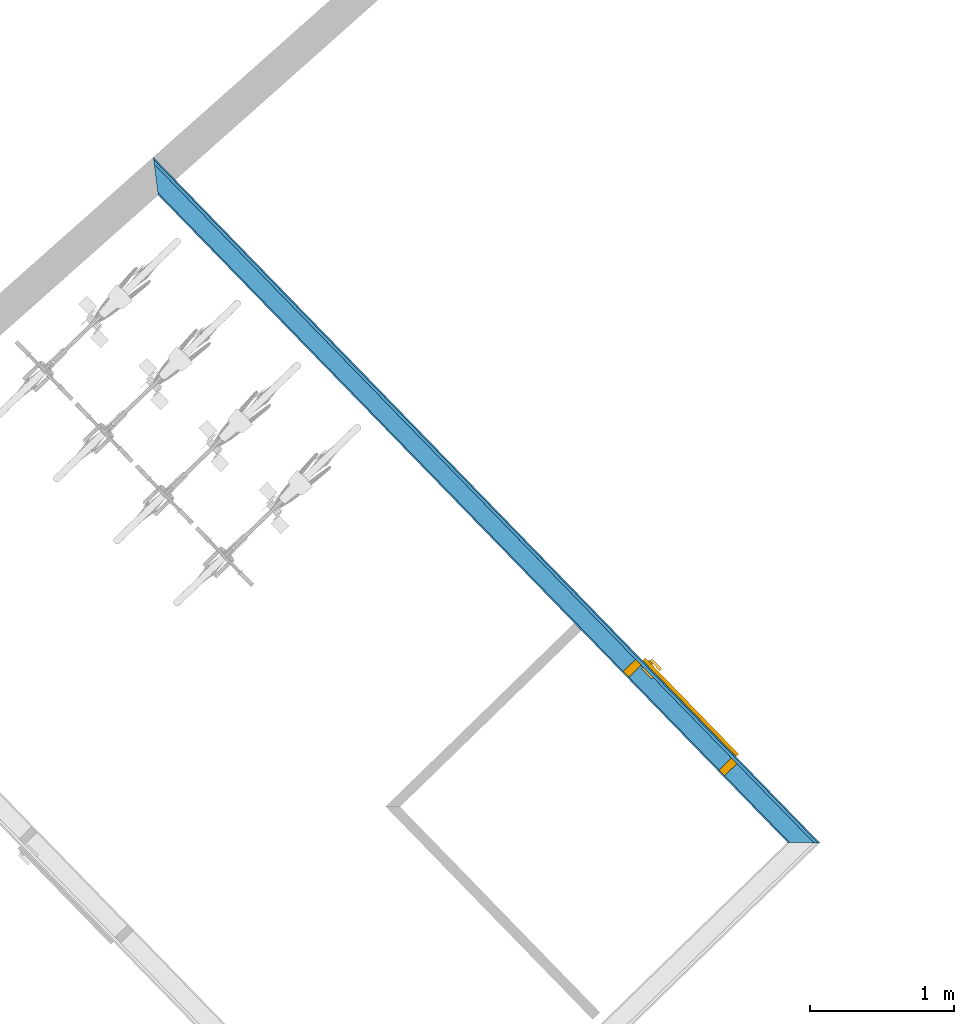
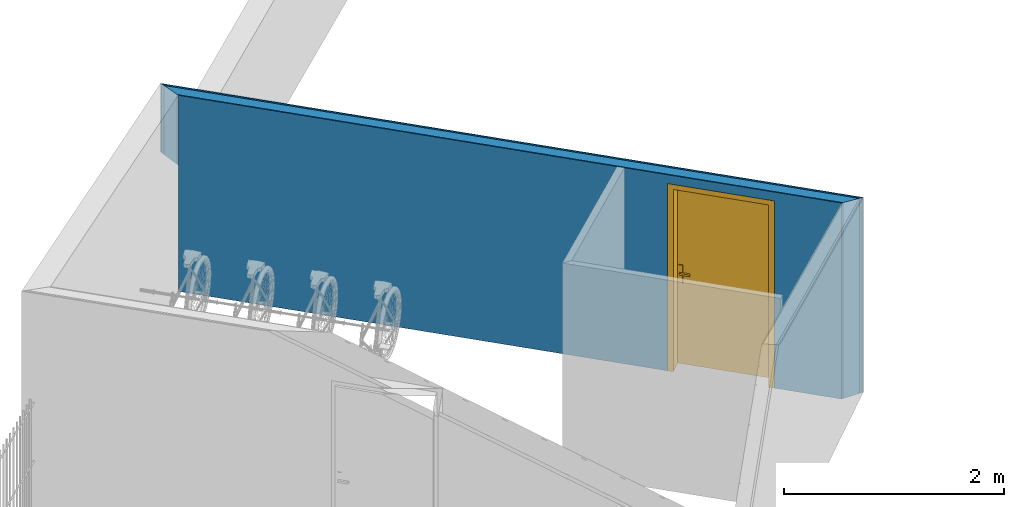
# One storey, part 113 of 195: 4 building element parts, 1 door, 1 opening, 1 element without a shape of its own.
"""IFC2X3 building model written with IfcOpenShell, lengths in metres."""

from ifc_helpers import new_model, entity, si_unit, converted_unit, derived_unit, money_unit, direction, frame, origin_with_axes, origin_2d_with_axis, place, context, subcontext, project, spatial, polyline, rectangle, outline, extrude, boolean, faceted_brep, source, transform, mapped, material, type_object, element, fill, aggregate, save


model = new_model("IFC2X3")

# Units and contexts
model_context = context("Model", 3, precision=1e-05, world=origin_with_axes(), true_north=direction((0.0, 1.0)))
body_context = subcontext(model_context, "Body", "Model", "MODEL_VIEW")
ifc_project = project(units=[si_unit("LENGTHUNIT", "METRE"), si_unit("AREAUNIT", "SQUARE_METRE"), si_unit("VOLUMEUNIT", "CUBIC_METRE"), converted_unit("PLANEANGLEUNIT", "DEGREE", entity("IfcPlaneAngleMeasure", 0.0174532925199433), si_unit("PLANEANGLEUNIT", "RADIAN"), dimensions=[0, 0, 0, 0, 0, 0, 0]), money_unit("CHF"), converted_unit("TIMEUNIT", "Year", entity("IfcTimeMeasure", 31557600.0), si_unit("TIMEUNIT", "SECOND"), dimensions=[0, 0, 1, 0, 0, 0, 0]), si_unit("MASSUNIT", "GRAM", prefix="KILO"), si_unit("THERMODYNAMICTEMPERATUREUNIT", "DEGREE_CELSIUS"), si_unit("LUMINOUSINTENSITYUNIT", "LUMEN"), si_unit("ENERGYUNIT", "JOULE", prefix="MEGA"), derived_unit("THERMALCONDUCTANCEUNIT", [(si_unit("POWERUNIT", "WATT"), 1), (si_unit("LENGTHUNIT", "METRE"), -1), (si_unit("THERMODYNAMICTEMPERATUREUNIT", "KELVIN"), -1)]), derived_unit("SPECIFICHEATCAPACITYUNIT", [(si_unit("ENERGYUNIT", "JOULE"), 1), (si_unit("MASSUNIT", "GRAM", prefix="KILO"), -1), (si_unit("THERMODYNAMICTEMPERATUREUNIT", "KELVIN"), -1)]), derived_unit("MASSDENSITYUNIT", [(si_unit("MASSUNIT", "GRAM", prefix="KILO"), 1), (si_unit("VOLUMEUNIT", "CUBIC_METRE"), -1)])], contexts=[model_context])

# Site, building, storey
site_placement = place(None, origin_with_axes())
site = spatial("IfcSite", under=ifc_project, at=site_placement, Name="Site", CompositionType="ELEMENT")
building_placement = place(site_placement, origin_with_axes())
building = spatial("IfcBuilding", under=site, at=building_placement, Name="Bâtiment", CompositionType="ELEMENT")
storey_placement = place(building_placement, origin_with_axes())
storey = spatial("IfcBuildingStorey", under=building, at=storey_placement, Name="rdc", CompositionType="ELEMENT", Elevation=0.0)

# Door
door_style = type_object("IfcDoorStyle", Name="Porte_1v", ConstructionType="NOTDEFINED", OperationType="NOTDEFINED", ParameterTakesPrecedence=False, Sizeable=False)
shared_shape = source(origin_with_axes(), body_context, "Body", "Brep", [
    faceted_brep([(0.505, 0.0, 0.0), (0.465, 0.0, 0.0), (0.465, 0.0, 2.04), (-0.465, 0.0, 2.04), (-0.465, 0.0, 0.0), (-0.505, 0.0, 0.0), (-0.505, 0.0, 2.08), (0.505, 0.0, 2.08), (0.505, -0.16, 0.0), (0.45, -0.16, 0.0), (0.45, -0.015, 0.0), (0.465, -0.015, 0.0), (0.465, -0.015, 2.04), (-0.465, -0.015, 2.04), (-0.465, -0.015, 0.0), (-0.45, -0.015, 0.0), (-0.45, -0.16, 0.0), (-0.505, -0.16, 0.0), (-0.505, -0.16, 2.08), (0.505, -0.16, 2.08), (-0.45, -0.16, 2.025), (0.45, -0.16, 2.025), (0.45, -0.015, 2.025), (-0.45, -0.015, 2.025)], [[[0, 1, 2, 3, 4, 5, 6, 7]], [[0, 8, 9, 10, 11, 1]], [[1, 11, 12, 2]], [[2, 12, 13, 3]], [[3, 13, 14, 4]], [[5, 4, 14, 15, 16, 17]], [[18, 6, 5, 17]], [[19, 7, 6, 18]], [[8, 0, 7, 19]], [[9, 8, 19, 18, 17, 16, 20, 21]], [[10, 9, 21, 22]], [[11, 10, 22, 23, 15, 14, 13, 12]], [[23, 20, 16, 15]], [[22, 21, 20, 23]]]),
    faceted_brep([(-0.4, -0.015, 0.9), (-0.44, -0.015, 0.9), (-0.44, -0.015, 1.1), (-0.4, -0.015, 1.1), (-0.4, -0.025, 0.9), (-0.44, -0.025, 0.9), (-0.44, -0.025, 1.1), (-0.4, -0.025, 1.1)], [[[0, 1, 2, 3]], [[1, 0, 4, 5]], [[2, 1, 5, 6]], [[3, 2, 6, 7]], [[0, 3, 7, 4]], [[5, 4, 7, 6]]]),
    faceted_brep([(-0.33, -0.025, 1.0), (-0.43, -0.025, 1.0), (-0.43, -0.025, 1.02), (-0.33, -0.025, 1.02), (-0.33, -0.045, 1.0), (-0.43, -0.045, 1.0), (-0.43, -0.045, 1.02), (-0.33, -0.045, 1.02)], [[[0, 1, 2, 3]], [[1, 0, 4, 5]], [[2, 1, 5, 6]], [[3, 2, 6, 7]], [[0, 3, 7, 4]], [[5, 4, 7, 6]]]),
    faceted_brep([(-0.4, 0.035, 0.9), (-0.44, 0.035, 0.9), (-0.44, 0.035, 1.1), (-0.4, 0.035, 1.1), (-0.4, 0.025, 0.9), (-0.44, 0.025, 0.9), (-0.44, 0.025, 1.1), (-0.4, 0.025, 1.1)], [[[0, 1, 2, 3]], [[1, 0, 4, 5]], [[2, 1, 5, 6]], [[3, 2, 6, 7]], [[0, 3, 7, 4]], [[5, 4, 7, 6]]]),
    faceted_brep([(-0.33, 0.05500000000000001, 1.0), (-0.43, 0.05500000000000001, 1.0), (-0.43, 0.05500000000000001, 1.02), (-0.33, 0.05500000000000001, 1.02), (-0.33, 0.035, 1.0), (-0.43, 0.035, 1.0), (-0.43, 0.035, 1.02), (-0.33, 0.035, 1.02)], [[[0, 1, 2, 3]], [[1, 0, 4, 5]], [[2, 1, 5, 6]], [[3, 2, 6, 7]], [[0, 3, 7, 4]], [[5, 4, 7, 6]]]),
    faceted_brep([(-0.465, 0.025, 0.0), (0.465, 0.025, 0.0), (0.465, -0.015, 0.0), (-0.465, -0.015, 0.0), (-0.465, 0.025, 2.04), (0.465, 0.025, 2.04), (0.465, -0.015, 2.04), (-0.465, -0.015, 2.04)], [[[0, 1, 2, 3]], [[0, 4, 5, 1]], [[1, 5, 6, 2]], [[3, 2, 6, 7]], [[4, 0, 3, 7]], [[5, 4, 7, 6]]]),
])
wall_placement = place(storey_placement, frame((9527.767555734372, -1047.740629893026, 57.7), z_axis=(0.0, 0.0, 1.0), x_axis=(0.6970514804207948, -0.7170210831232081, 0.0)))
opening_placement = place(wall_placement, frame((5.344463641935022, 0.0, 0.0), z_axis=(0.0, 0.0, 1.0), x_axis=(1.0, 0.0, 0.0)))
door_placement = place(opening_placement, frame((-0.4649999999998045, 0.0, 0.0), z_axis=(0.0, 0.0, 1.0), x_axis=(1.0, 0.0, 0.0)))
door = element("IfcDoor", 1, at=door_placement, inside=storey, type_object=door_style, Name="Por-303", OverallHeight=2.04, OverallWidth=0.93, context=body_context, shape_type="MappedRepresentation", body=[
    mapped(shared_shape, transform((0.4650000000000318, 0.0, 0.0))),
])

# Wall, opening
wall_type = type_object("IfcWallType", Name="1/Ossatur bois 160   non isol 160", PredefinedType="NOTDEFINED")
wall = element("IfcWall", 2, at=wall_placement, inside=storey, type_object=wall_type, Name="Mur-110")
opening = element("IfcOpeningElement", 3, at=opening_placement, cuts=wall, Name="Por-303", context=body_context, shape_type="SweptSolid", body=[
    extrude(rectangle(XDim=1.01000001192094, YDim=2.079999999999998, at=origin_2d_with_axis()), frame((5.960487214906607e-09, -0.1599999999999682, 1.039999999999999), z_axis=(0.0, 1.0, 0.0), x_axis=(1.0, 0.0, 0.0)), (0.0, 0.0, 1.0), 0.32),
])

fill(opening, door)

# Building element part
ifc_material_1 = material(Name="Sans Trame 296962763")
building_element_part_1_placement = place(wall_placement, origin_with_axes())
building_element_part_1 = element("IfcBuildingElementPart", 4, at=building_element_part_1_placement, material=ifc_material_1, Name="Sans Trame 296962763", context=body_context, shape_type="CSG", body=[
    boolean("DIFFERENCE", boolean("DIFFERENCE", boolean("DIFFERENCE", boolean("DIFFERENCE", extrude(outline(polyline([(-0.007237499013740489, -0.1600000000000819), (6.645995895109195, -0.1600000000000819), (6.645995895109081, -0.1500000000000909), (-0.007237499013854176, -0.1499999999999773), (-0.007237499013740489, -0.1600000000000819)])), origin_with_axes(), (0.0, 0.0, 1.0), 2.75), faceted_brep([(0.2134398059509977, -0.1500000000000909, 1.399999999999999), (0.2134398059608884, -0.1499999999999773, 0.0), (-0.007237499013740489, -0.1499999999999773, 0.0), (-0.007237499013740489, -0.1499999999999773, 2.75), (6.645995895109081, -0.1500000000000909, 2.75), (6.645995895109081, -0.1500000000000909, 0.0), (6.495995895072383, -0.1500000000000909, 0.0), (6.495995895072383, -0.1500000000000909, 2.177357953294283), (0.1996757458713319, -0.1500000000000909, 2.177357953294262), (0.1996757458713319, -0.1500000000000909, 1.399999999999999), (0.2129874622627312, -0.1600000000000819, 1.399999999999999), (0.2129874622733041, -0.1599999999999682, 0.0), (-0.007237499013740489, -0.1600000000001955, 0.0), (-0.007237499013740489, -0.1600000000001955, 2.75), (6.645995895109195, -0.1600000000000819, 2.75), (6.645995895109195, -0.1600000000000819, 0.0), (6.485995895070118, -0.1599999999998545, 0.0), (6.485995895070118, -0.1599999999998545, 2.178232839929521), (0.2129874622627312, -0.1600000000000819, 2.178232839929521)], [[[0, 1, 2, 3, 4, 5, 6, 7, 8, 9]], [[1, 0, 10, 11]], [[1, 11, 12, 2]], [[3, 2, 12, 13]], [[3, 13, 14, 4]], [[14, 15, 5, 4]], [[16, 6, 5, 15]], [[7, 6, 16, 17]], [[8, 7, 17, 18]], [[18, 10, 9, 8]], [[0, 9, 10]], [[17, 16, 15, 14, 13, 12, 11, 10, 18]]])), faceted_brep([(0.218867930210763, -0.02999999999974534, 1.399999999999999), (0.2188679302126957, -0.02999999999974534, 0.0), (-0.007237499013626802, -0.02999999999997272, 0.0), (-0.007237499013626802, -0.02999999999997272, 2.75), (6.645995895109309, -0.02999999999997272, 2.75), (6.645995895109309, -0.02999999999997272, 0.0), (6.615995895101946, -0.02999999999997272, 0.0), (6.615995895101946, -0.02999999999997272, 2.166859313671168), (0.03993514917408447, -0.02999999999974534, 2.166859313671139), (0.03993514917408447, -0.02999999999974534, 1.399999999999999), (0.213439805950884, -0.1499999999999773, 1.399999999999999), (0.2134398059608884, -0.1499999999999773, 0.0), (-0.007237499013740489, -0.1499999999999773, 0.0), (-0.007237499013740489, -0.1499999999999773, 2.75), (6.645995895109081, -0.1500000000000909, 2.75), (6.645995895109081, -0.1500000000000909, 0.0), (6.495995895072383, -0.1500000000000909, 0.0), (6.495995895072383, -0.1500000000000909, 2.177357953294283), (0.1996757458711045, -0.1499999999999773, 2.177357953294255), (0.1996757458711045, -0.1499999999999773, 1.399999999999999)], [[[0, 1, 2, 3, 4, 5, 6, 7, 8, 9]], [[1, 0, 10, 11]], [[1, 11, 12, 2]], [[3, 2, 12, 13]], [[3, 13, 14, 4]], [[14, 15, 5, 4]], [[16, 6, 5, 15]], [[7, 6, 16, 17]], [[8, 7, 17, 18]], [[18, 19, 9, 8]], [[0, 9, 19, 10]], [[17, 16, 15, 14, 13, 12, 11, 10, 19, 18]]])), faceted_brep([(0.2197726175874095, -0.009999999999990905, 1.399999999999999), (0.2197726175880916, -0.009999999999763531, 0.0), (-0.007237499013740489, -0.009999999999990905, 0.0), (-0.007237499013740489, -0.009999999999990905, 2.75), (6.645995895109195, -0.01000000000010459, 2.75), (6.645995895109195, -0.01000000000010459, 0.0), (6.635995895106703, -0.01000000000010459, 0.0), (6.635995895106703, -0.01000000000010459, 2.165109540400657), (0.01331171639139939, -0.009999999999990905, 2.165109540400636), (0.01331171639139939, -0.009999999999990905, 1.399999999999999), (0.218867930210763, -0.02999999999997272, 1.399999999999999), (0.2188679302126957, -0.02999999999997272, 0.0), (-0.007237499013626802, -0.02999999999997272, 0.0), (-0.007237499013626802, -0.02999999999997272, 2.75), (6.645995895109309, -0.02999999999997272, 2.75), (6.645995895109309, -0.02999999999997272, 0.0), (6.615995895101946, -0.02999999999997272, 0.0), (6.615995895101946, -0.02999999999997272, 2.166859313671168), (0.03993514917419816, -0.02999999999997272, 2.166859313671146), (0.03993514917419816, -0.02999999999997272, 1.399999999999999)], [[[0, 1, 2, 3, 4, 5, 6, 7, 8, 9]], [[1, 0, 10, 11]], [[1, 11, 12, 2]], [[3, 2, 12, 13]], [[3, 13, 14, 4]], [[14, 15, 5, 4]], [[16, 6, 5, 15]], [[7, 6, 16, 17]], [[8, 7, 17, 18]], [[18, 19, 9, 8]], [[0, 9, 19, 10]], [[17, 16, 15, 14, 13, 12, 11, 10, 19, 18]]])), faceted_brep([(6.645995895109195, 0.0, 0.0), (6.645995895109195, 0.0, 2.164234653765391), (6.645995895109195, 0.0, 2.75), (6.645995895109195, -0.01000000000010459, 2.75), (6.645995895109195, -0.01000000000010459, 0.0), (6.635995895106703, -0.01000000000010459, 0.0), (6.635995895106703, -0.01000000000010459, 2.165109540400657), (0.2202249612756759, 0.0, 1.399999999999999), (0.2202249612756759, 0.0, 0.0), (-0.007237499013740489, 0.0, 0.0), (-0.007237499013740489, 0.0, 2.75), (0.0, 0.0, 2.164234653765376), (0.0, 0.0, 1.399999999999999), (-0.007237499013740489, -0.009999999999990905, 2.75), (-0.007237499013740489, -0.009999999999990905, 0.0), (0.2197726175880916, -0.009999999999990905, 0.0), (0.2197726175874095, -0.009999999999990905, 1.399999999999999), (0.01331171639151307, -0.009999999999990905, 1.399999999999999), (0.01331171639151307, -0.009999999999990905, 2.165109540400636)], [[[0, 1, 2, 3, 4]], [[1, 0, 5, 6]], [[7, 8, 9, 10, 2, 1, 11, 12]], [[10, 13, 3, 2]], [[6, 5, 4, 3, 13, 14, 15, 16, 17, 18]], [[5, 0, 4]], [[11, 1, 6, 18]], [[8, 7, 16, 15]], [[8, 15, 14, 9]], [[10, 9, 14, 13]], [[18, 17, 12, 11]], [[7, 12, 17, 16]]])),
])

ifc_material_2 = material(Name="Lame d'air 323202302")
building_element_part_2_placement = place(wall_placement, origin_with_axes())
building_element_part_2 = element("IfcBuildingElementPart", 5, at=building_element_part_2_placement, material=ifc_material_2, Name="Lame d'air 323202302", context=body_context, shape_type="CSG", body=[
    boolean("DIFFERENCE", boolean("DIFFERENCE", boolean("DIFFERENCE", boolean("DIFFERENCE", extrude(outline(polyline([(-0.007237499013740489, -0.02999999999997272), (6.645995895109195, -0.02999999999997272), (6.645995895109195, -0.009999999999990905), (-0.007237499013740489, -0.009999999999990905), (-0.007237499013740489, -0.02999999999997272)])), origin_with_axes(), (0.0, 0.0, 1.0), 2.75), faceted_brep([(0.2134398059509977, -0.1500000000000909, 1.399999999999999), (0.2134398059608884, -0.1499999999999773, 0.0), (-0.007237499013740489, -0.1499999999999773, 0.0), (-0.007237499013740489, -0.1499999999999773, 2.75), (6.645995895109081, -0.1500000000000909, 2.75), (6.645995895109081, -0.1500000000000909, 0.0), (6.495995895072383, -0.1500000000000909, 0.0), (6.495995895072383, -0.1500000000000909, 2.177357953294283), (0.1996757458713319, -0.1500000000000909, 2.177357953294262), (0.1996757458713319, -0.1500000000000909, 1.399999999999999), (0.2129874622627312, -0.1600000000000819, 1.399999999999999), (0.2129874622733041, -0.1599999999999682, 0.0), (-0.007237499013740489, -0.1600000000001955, 0.0), (-0.007237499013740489, -0.1600000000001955, 2.75), (6.645995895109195, -0.1600000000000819, 2.75), (6.645995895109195, -0.1600000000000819, 0.0), (6.485995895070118, -0.1599999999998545, 0.0), (6.485995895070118, -0.1599999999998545, 2.178232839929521), (0.2129874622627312, -0.1600000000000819, 2.178232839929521)], [[[0, 1, 2, 3, 4, 5, 6, 7, 8, 9]], [[1, 0, 10, 11]], [[1, 11, 12, 2]], [[3, 2, 12, 13]], [[3, 13, 14, 4]], [[14, 15, 5, 4]], [[16, 6, 5, 15]], [[7, 6, 16, 17]], [[8, 7, 17, 18]], [[18, 10, 9, 8]], [[0, 9, 10]], [[17, 16, 15, 14, 13, 12, 11, 10, 18]]])), faceted_brep([(0.218867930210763, -0.02999999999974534, 1.399999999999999), (0.2188679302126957, -0.02999999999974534, 0.0), (-0.007237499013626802, -0.02999999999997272, 0.0), (-0.007237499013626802, -0.02999999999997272, 2.75), (6.645995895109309, -0.02999999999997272, 2.75), (6.645995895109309, -0.02999999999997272, 0.0), (6.615995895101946, -0.02999999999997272, 0.0), (6.615995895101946, -0.02999999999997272, 2.166859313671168), (0.03993514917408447, -0.02999999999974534, 2.166859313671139), (0.03993514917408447, -0.02999999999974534, 1.399999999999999), (0.213439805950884, -0.1499999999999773, 1.399999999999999), (0.2134398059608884, -0.1499999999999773, 0.0), (-0.007237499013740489, -0.1499999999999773, 0.0), (-0.007237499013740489, -0.1499999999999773, 2.75), (6.645995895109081, -0.1500000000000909, 2.75), (6.645995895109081, -0.1500000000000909, 0.0), (6.495995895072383, -0.1500000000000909, 0.0), (6.495995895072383, -0.1500000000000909, 2.177357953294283), (0.1996757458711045, -0.1499999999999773, 2.177357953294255), (0.1996757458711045, -0.1499999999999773, 1.399999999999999)], [[[0, 1, 2, 3, 4, 5, 6, 7, 8, 9]], [[1, 0, 10, 11]], [[1, 11, 12, 2]], [[3, 2, 12, 13]], [[3, 13, 14, 4]], [[14, 15, 5, 4]], [[16, 6, 5, 15]], [[7, 6, 16, 17]], [[8, 7, 17, 18]], [[18, 19, 9, 8]], [[0, 9, 19, 10]], [[17, 16, 15, 14, 13, 12, 11, 10, 19, 18]]])), faceted_brep([(0.2197726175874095, -0.009999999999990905, 1.399999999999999), (0.2197726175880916, -0.009999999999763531, 0.0), (-0.007237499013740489, -0.009999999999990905, 0.0), (-0.007237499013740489, -0.009999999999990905, 2.75), (6.645995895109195, -0.01000000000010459, 2.75), (6.645995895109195, -0.01000000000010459, 0.0), (6.635995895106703, -0.01000000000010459, 0.0), (6.635995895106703, -0.01000000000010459, 2.165109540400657), (0.01331171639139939, -0.009999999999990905, 2.165109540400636), (0.01331171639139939, -0.009999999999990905, 1.399999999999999), (0.218867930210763, -0.02999999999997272, 1.399999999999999), (0.2188679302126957, -0.02999999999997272, 0.0), (-0.007237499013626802, -0.02999999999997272, 0.0), (-0.007237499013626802, -0.02999999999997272, 2.75), (6.645995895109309, -0.02999999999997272, 2.75), (6.645995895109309, -0.02999999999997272, 0.0), (6.615995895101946, -0.02999999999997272, 0.0), (6.615995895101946, -0.02999999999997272, 2.166859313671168), (0.03993514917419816, -0.02999999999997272, 2.166859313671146), (0.03993514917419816, -0.02999999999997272, 1.399999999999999)], [[[0, 1, 2, 3, 4, 5, 6, 7, 8, 9]], [[1, 0, 10, 11]], [[1, 11, 12, 2]], [[3, 2, 12, 13]], [[3, 13, 14, 4]], [[14, 15, 5, 4]], [[16, 6, 5, 15]], [[7, 6, 16, 17]], [[8, 7, 17, 18]], [[18, 19, 9, 8]], [[0, 9, 19, 10]], [[17, 16, 15, 14, 13, 12, 11, 10, 19, 18]]])), faceted_brep([(6.645995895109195, 0.0, 0.0), (6.645995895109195, 0.0, 2.164234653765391), (6.645995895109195, 0.0, 2.75), (6.645995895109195, -0.01000000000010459, 2.75), (6.645995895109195, -0.01000000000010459, 0.0), (6.635995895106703, -0.01000000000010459, 0.0), (6.635995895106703, -0.01000000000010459, 2.165109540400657), (0.2202249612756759, 0.0, 1.399999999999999), (0.2202249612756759, 0.0, 0.0), (-0.007237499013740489, 0.0, 0.0), (-0.007237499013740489, 0.0, 2.75), (0.0, 0.0, 2.164234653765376), (0.0, 0.0, 1.399999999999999), (-0.007237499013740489, -0.009999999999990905, 2.75), (-0.007237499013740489, -0.009999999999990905, 0.0), (0.2197726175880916, -0.009999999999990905, 0.0), (0.2197726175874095, -0.009999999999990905, 1.399999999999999), (0.01331171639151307, -0.009999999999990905, 1.399999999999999), (0.01331171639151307, -0.009999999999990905, 2.165109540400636)], [[[0, 1, 2, 3, 4]], [[1, 0, 5, 6]], [[7, 8, 9, 10, 2, 1, 11, 12]], [[10, 13, 3, 2]], [[6, 5, 4, 3, 13, 14, 15, 16, 17, 18]], [[5, 0, 4]], [[11, 1, 6, 18]], [[8, 7, 16, 15]], [[8, 15, 14, 9]], [[10, 9, 14, 13]], [[18, 17, 12, 11]], [[7, 12, 17, 16]]])),
])

ifc_material_3 = material(Name="Hachure solide 323202122")
building_element_part_3_placement = place(wall_placement, origin_with_axes())
building_element_part_3 = element("IfcBuildingElementPart", 6, at=building_element_part_3_placement, material=ifc_material_3, Name="Hachure solide 323202122", context=body_context, shape_type="CSG", body=[
    boolean("DIFFERENCE", boolean("DIFFERENCE", boolean("DIFFERENCE", boolean("DIFFERENCE", extrude(outline(polyline([(-0.007237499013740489, -0.009999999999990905), (6.645995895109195, -0.009999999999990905), (6.645995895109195, 0.0), (-0.007237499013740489, 0.0), (-0.007237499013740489, -0.009999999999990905)])), origin_with_axes(), (0.0, 0.0, 1.0), 2.75), faceted_brep([(0.2134398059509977, -0.1500000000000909, 1.399999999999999), (0.2134398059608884, -0.1499999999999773, 0.0), (-0.007237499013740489, -0.1499999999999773, 0.0), (-0.007237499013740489, -0.1499999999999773, 2.75), (6.645995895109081, -0.1500000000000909, 2.75), (6.645995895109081, -0.1500000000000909, 0.0), (6.495995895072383, -0.1500000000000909, 0.0), (6.495995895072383, -0.1500000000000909, 2.177357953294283), (0.1996757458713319, -0.1500000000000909, 2.177357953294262), (0.1996757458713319, -0.1500000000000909, 1.399999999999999), (0.2129874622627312, -0.1600000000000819, 1.399999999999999), (0.2129874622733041, -0.1599999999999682, 0.0), (-0.007237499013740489, -0.1600000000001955, 0.0), (-0.007237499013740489, -0.1600000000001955, 2.75), (6.645995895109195, -0.1600000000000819, 2.75), (6.645995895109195, -0.1600000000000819, 0.0), (6.485995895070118, -0.1599999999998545, 0.0), (6.485995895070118, -0.1599999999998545, 2.178232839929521), (0.2129874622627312, -0.1600000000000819, 2.178232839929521)], [[[0, 1, 2, 3, 4, 5, 6, 7, 8, 9]], [[1, 0, 10, 11]], [[1, 11, 12, 2]], [[3, 2, 12, 13]], [[3, 13, 14, 4]], [[14, 15, 5, 4]], [[16, 6, 5, 15]], [[7, 6, 16, 17]], [[8, 7, 17, 18]], [[18, 10, 9, 8]], [[0, 9, 10]], [[17, 16, 15, 14, 13, 12, 11, 10, 18]]])), faceted_brep([(0.218867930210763, -0.02999999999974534, 1.399999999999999), (0.2188679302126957, -0.02999999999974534, 0.0), (-0.007237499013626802, -0.02999999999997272, 0.0), (-0.007237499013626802, -0.02999999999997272, 2.75), (6.645995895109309, -0.02999999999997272, 2.75), (6.645995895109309, -0.02999999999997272, 0.0), (6.615995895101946, -0.02999999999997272, 0.0), (6.615995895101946, -0.02999999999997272, 2.166859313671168), (0.03993514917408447, -0.02999999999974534, 2.166859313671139), (0.03993514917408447, -0.02999999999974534, 1.399999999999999), (0.213439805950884, -0.1499999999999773, 1.399999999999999), (0.2134398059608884, -0.1499999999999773, 0.0), (-0.007237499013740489, -0.1499999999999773, 0.0), (-0.007237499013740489, -0.1499999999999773, 2.75), (6.645995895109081, -0.1500000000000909, 2.75), (6.645995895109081, -0.1500000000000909, 0.0), (6.495995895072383, -0.1500000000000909, 0.0), (6.495995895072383, -0.1500000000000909, 2.177357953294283), (0.1996757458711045, -0.1499999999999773, 2.177357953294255), (0.1996757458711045, -0.1499999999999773, 1.399999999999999)], [[[0, 1, 2, 3, 4, 5, 6, 7, 8, 9]], [[1, 0, 10, 11]], [[1, 11, 12, 2]], [[3, 2, 12, 13]], [[3, 13, 14, 4]], [[14, 15, 5, 4]], [[16, 6, 5, 15]], [[7, 6, 16, 17]], [[8, 7, 17, 18]], [[18, 19, 9, 8]], [[0, 9, 19, 10]], [[17, 16, 15, 14, 13, 12, 11, 10, 19, 18]]])), faceted_brep([(0.2197726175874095, -0.009999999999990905, 1.399999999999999), (0.2197726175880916, -0.009999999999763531, 0.0), (-0.007237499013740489, -0.009999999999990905, 0.0), (-0.007237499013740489, -0.009999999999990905, 2.75), (6.645995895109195, -0.01000000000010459, 2.75), (6.645995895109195, -0.01000000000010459, 0.0), (6.635995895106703, -0.01000000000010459, 0.0), (6.635995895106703, -0.01000000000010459, 2.165109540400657), (0.01331171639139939, -0.009999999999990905, 2.165109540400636), (0.01331171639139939, -0.009999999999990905, 1.399999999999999), (0.218867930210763, -0.02999999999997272, 1.399999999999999), (0.2188679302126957, -0.02999999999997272, 0.0), (-0.007237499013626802, -0.02999999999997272, 0.0), (-0.007237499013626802, -0.02999999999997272, 2.75), (6.645995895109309, -0.02999999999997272, 2.75), (6.645995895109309, -0.02999999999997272, 0.0), (6.615995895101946, -0.02999999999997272, 0.0), (6.615995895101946, -0.02999999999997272, 2.166859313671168), (0.03993514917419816, -0.02999999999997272, 2.166859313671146), (0.03993514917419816, -0.02999999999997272, 1.399999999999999)], [[[0, 1, 2, 3, 4, 5, 6, 7, 8, 9]], [[1, 0, 10, 11]], [[1, 11, 12, 2]], [[3, 2, 12, 13]], [[3, 13, 14, 4]], [[14, 15, 5, 4]], [[16, 6, 5, 15]], [[7, 6, 16, 17]], [[8, 7, 17, 18]], [[18, 19, 9, 8]], [[0, 9, 19, 10]], [[17, 16, 15, 14, 13, 12, 11, 10, 19, 18]]])), faceted_brep([(6.645995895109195, 0.0, 0.0), (6.645995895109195, 0.0, 2.164234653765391), (6.645995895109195, 0.0, 2.75), (6.645995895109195, -0.01000000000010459, 2.75), (6.645995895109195, -0.01000000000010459, 0.0), (6.635995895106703, -0.01000000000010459, 0.0), (6.635995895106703, -0.01000000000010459, 2.165109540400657), (0.2202249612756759, 0.0, 1.399999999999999), (0.2202249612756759, 0.0, 0.0), (-0.007237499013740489, 0.0, 0.0), (-0.007237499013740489, 0.0, 2.75), (0.0, 0.0, 2.164234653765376), (0.0, 0.0, 1.399999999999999), (-0.007237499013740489, -0.009999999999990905, 2.75), (-0.007237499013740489, -0.009999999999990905, 0.0), (0.2197726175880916, -0.009999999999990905, 0.0), (0.2197726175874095, -0.009999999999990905, 1.399999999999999), (0.01331171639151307, -0.009999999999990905, 1.399999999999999), (0.01331171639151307, -0.009999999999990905, 2.165109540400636)], [[[0, 1, 2, 3, 4]], [[1, 0, 5, 6]], [[7, 8, 9, 10, 2, 1, 11, 12]], [[10, 13, 3, 2]], [[6, 5, 4, 3, 13, 14, 15, 16, 17, 18]], [[5, 0, 4]], [[11, 1, 6, 18]], [[8, 7, 16, 15]], [[8, 15, 14, 9]], [[10, 9, 14, 13]], [[18, 17, 12, 11]], [[7, 12, 17, 16]]])),
])

ifc_material_4 = material(Name="Lame d'air 275581439")
building_element_part_4_placement = place(wall_placement, origin_with_axes())
building_element_part_4 = element("IfcBuildingElementPart", 7, at=building_element_part_4_placement, material=ifc_material_4, Name="Lame d'air 275581439", context=body_context, shape_type="CSG", body=[
    boolean("DIFFERENCE", boolean("DIFFERENCE", boolean("DIFFERENCE", boolean("DIFFERENCE", extrude(outline(polyline([(-0.007237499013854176, -0.1499999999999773), (6.645995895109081, -0.1500000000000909), (6.645995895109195, -0.02999999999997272), (-0.007237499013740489, -0.02999999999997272), (-0.007237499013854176, -0.1499999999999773)])), origin_with_axes(), (0.0, 0.0, 1.0), 2.75), faceted_brep([(0.2134398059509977, -0.1500000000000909, 1.399999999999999), (0.2134398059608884, -0.1499999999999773, 0.0), (-0.007237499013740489, -0.1499999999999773, 0.0), (-0.007237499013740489, -0.1499999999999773, 2.75), (6.645995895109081, -0.1500000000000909, 2.75), (6.645995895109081, -0.1500000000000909, 0.0), (6.495995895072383, -0.1500000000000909, 0.0), (6.495995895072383, -0.1500000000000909, 2.177357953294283), (0.1996757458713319, -0.1500000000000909, 2.177357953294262), (0.1996757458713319, -0.1500000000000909, 1.399999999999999), (0.2129874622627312, -0.1600000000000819, 1.399999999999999), (0.2129874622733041, -0.1599999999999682, 0.0), (-0.007237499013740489, -0.1600000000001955, 0.0), (-0.007237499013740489, -0.1600000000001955, 2.75), (6.645995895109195, -0.1600000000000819, 2.75), (6.645995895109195, -0.1600000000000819, 0.0), (6.485995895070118, -0.1599999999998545, 0.0), (6.485995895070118, -0.1599999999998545, 2.178232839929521), (0.2129874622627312, -0.1600000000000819, 2.178232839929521)], [[[0, 1, 2, 3, 4, 5, 6, 7, 8, 9]], [[1, 0, 10, 11]], [[1, 11, 12, 2]], [[3, 2, 12, 13]], [[3, 13, 14, 4]], [[14, 15, 5, 4]], [[16, 6, 5, 15]], [[7, 6, 16, 17]], [[8, 7, 17, 18]], [[18, 10, 9, 8]], [[0, 9, 10]], [[17, 16, 15, 14, 13, 12, 11, 10, 18]]])), faceted_brep([(0.218867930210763, -0.02999999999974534, 1.399999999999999), (0.2188679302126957, -0.02999999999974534, 0.0), (-0.007237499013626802, -0.02999999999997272, 0.0), (-0.007237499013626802, -0.02999999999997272, 2.75), (6.645995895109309, -0.02999999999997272, 2.75), (6.645995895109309, -0.02999999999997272, 0.0), (6.615995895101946, -0.02999999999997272, 0.0), (6.615995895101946, -0.02999999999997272, 2.166859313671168), (0.03993514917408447, -0.02999999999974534, 2.166859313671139), (0.03993514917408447, -0.02999999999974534, 1.399999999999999), (0.213439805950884, -0.1499999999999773, 1.399999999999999), (0.2134398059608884, -0.1499999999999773, 0.0), (-0.007237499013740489, -0.1499999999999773, 0.0), (-0.007237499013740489, -0.1499999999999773, 2.75), (6.645995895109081, -0.1500000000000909, 2.75), (6.645995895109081, -0.1500000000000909, 0.0), (6.495995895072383, -0.1500000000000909, 0.0), (6.495995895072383, -0.1500000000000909, 2.177357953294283), (0.1996757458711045, -0.1499999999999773, 2.177357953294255), (0.1996757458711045, -0.1499999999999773, 1.399999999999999)], [[[0, 1, 2, 3, 4, 5, 6, 7, 8, 9]], [[1, 0, 10, 11]], [[1, 11, 12, 2]], [[3, 2, 12, 13]], [[3, 13, 14, 4]], [[14, 15, 5, 4]], [[16, 6, 5, 15]], [[7, 6, 16, 17]], [[8, 7, 17, 18]], [[18, 19, 9, 8]], [[0, 9, 19, 10]], [[17, 16, 15, 14, 13, 12, 11, 10, 19, 18]]])), faceted_brep([(0.2197726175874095, -0.009999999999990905, 1.399999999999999), (0.2197726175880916, -0.009999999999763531, 0.0), (-0.007237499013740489, -0.009999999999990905, 0.0), (-0.007237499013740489, -0.009999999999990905, 2.75), (6.645995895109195, -0.01000000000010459, 2.75), (6.645995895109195, -0.01000000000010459, 0.0), (6.635995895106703, -0.01000000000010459, 0.0), (6.635995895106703, -0.01000000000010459, 2.165109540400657), (0.01331171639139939, -0.009999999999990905, 2.165109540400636), (0.01331171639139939, -0.009999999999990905, 1.399999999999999), (0.218867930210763, -0.02999999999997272, 1.399999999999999), (0.2188679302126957, -0.02999999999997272, 0.0), (-0.007237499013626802, -0.02999999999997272, 0.0), (-0.007237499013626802, -0.02999999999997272, 2.75), (6.645995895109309, -0.02999999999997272, 2.75), (6.645995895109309, -0.02999999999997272, 0.0), (6.615995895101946, -0.02999999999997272, 0.0), (6.615995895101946, -0.02999999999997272, 2.166859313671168), (0.03993514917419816, -0.02999999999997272, 2.166859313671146), (0.03993514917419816, -0.02999999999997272, 1.399999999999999)], [[[0, 1, 2, 3, 4, 5, 6, 7, 8, 9]], [[1, 0, 10, 11]], [[1, 11, 12, 2]], [[3, 2, 12, 13]], [[3, 13, 14, 4]], [[14, 15, 5, 4]], [[16, 6, 5, 15]], [[7, 6, 16, 17]], [[8, 7, 17, 18]], [[18, 19, 9, 8]], [[0, 9, 19, 10]], [[17, 16, 15, 14, 13, 12, 11, 10, 19, 18]]])), faceted_brep([(6.645995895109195, 0.0, 0.0), (6.645995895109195, 0.0, 2.164234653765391), (6.645995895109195, 0.0, 2.75), (6.645995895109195, -0.01000000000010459, 2.75), (6.645995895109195, -0.01000000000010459, 0.0), (6.635995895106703, -0.01000000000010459, 0.0), (6.635995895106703, -0.01000000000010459, 2.165109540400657), (0.2202249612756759, 0.0, 1.399999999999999), (0.2202249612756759, 0.0, 0.0), (-0.007237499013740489, 0.0, 0.0), (-0.007237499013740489, 0.0, 2.75), (0.0, 0.0, 2.164234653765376), (0.0, 0.0, 1.399999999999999), (-0.007237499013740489, -0.009999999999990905, 2.75), (-0.007237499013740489, -0.009999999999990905, 0.0), (0.2197726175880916, -0.009999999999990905, 0.0), (0.2197726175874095, -0.009999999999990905, 1.399999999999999), (0.01331171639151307, -0.009999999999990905, 1.399999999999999), (0.01331171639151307, -0.009999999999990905, 2.165109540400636)], [[[0, 1, 2, 3, 4]], [[1, 0, 5, 6]], [[7, 8, 9, 10, 2, 1, 11, 12]], [[10, 13, 3, 2]], [[6, 5, 4, 3, 13, 14, 15, 16, 17, 18]], [[5, 0, 4]], [[11, 1, 6, 18]], [[8, 7, 16, 15]], [[8, 15, 14, 9]], [[10, 9, 14, 13]], [[18, 17, 12, 11]], [[7, 12, 17, 16]]])),
])

aggregate(wall, [building_element_part_1, building_element_part_2, building_element_part_3, building_element_part_4])

save(model, "model.ifc")
